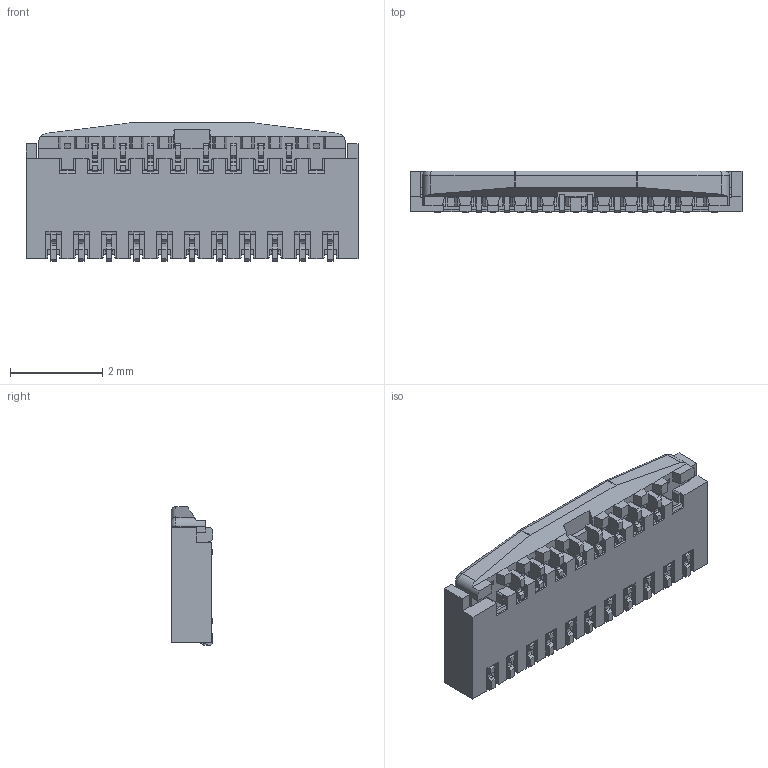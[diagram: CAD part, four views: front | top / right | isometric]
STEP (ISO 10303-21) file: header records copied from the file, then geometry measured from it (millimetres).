
FILE_DESCRIPTION (( 'STEP AP203' ), '1' );
FILE_NAME ('20599-017ExC ASS''Y ACT CLOSE STEP R0 Garmin.STEP', '2013-08-06T04:32:03', ( ' ' ), ( ' ' ), 'SwSTEP 2.0', 'SolidWorks 2011', '' );
FILE_SCHEMA (( 'CONFIG_CONTROL_DESIGN' ));
Products named in the file (1): 20599-017ExC ASS''Y ACT CLOSE STEP R0 Garmin
Bounding box: 7.2 x 0.9 x 3 mm (x, y, z)
Volume: 14.2 mm3; surface area: 89.4 mm2
Topology: 1 solids, 1 shells, 1794 faces, 5344 edges, 3480 vertices
Faces by surface type: plane 1538, cylinder 239, bspline 13, sphere 2, torus 2
Entity records: 59781 total; most frequent: CARTESIAN_POINT 11369, ORIENTED_EDGE 10684, DIRECTION 9290, EDGE_CURVE 5342, LINE 4772, VECTOR 4772, VERTEX_POINT 3480, AXIS2_PLACEMENT_3D 2259
